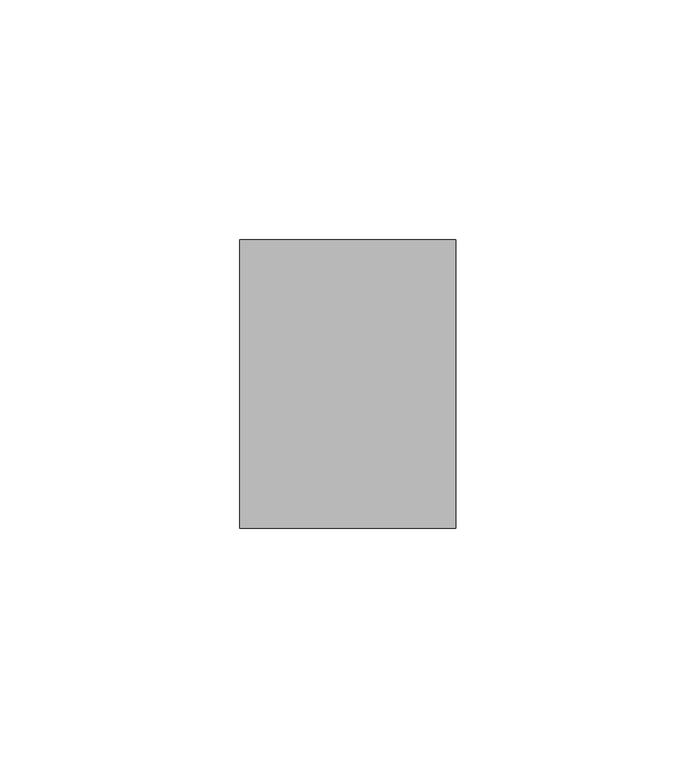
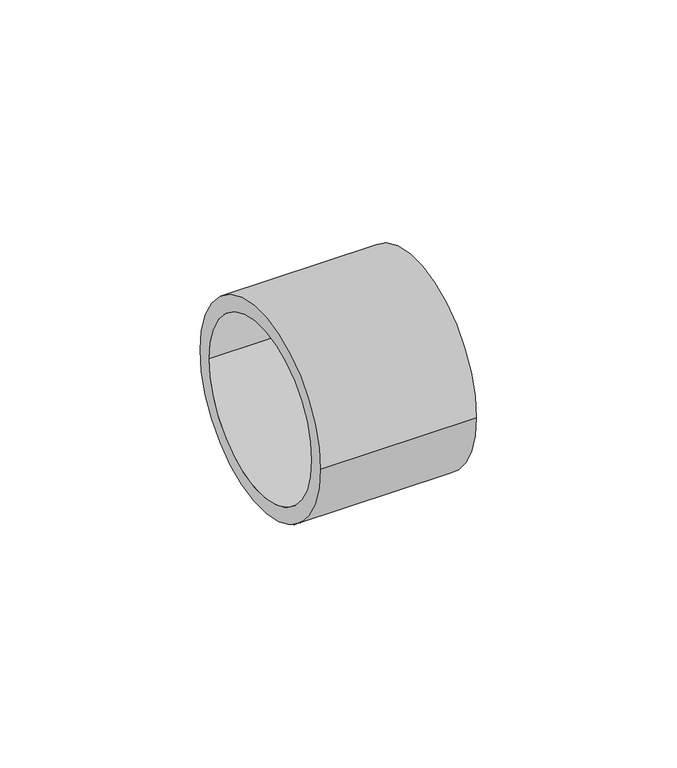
"""IFC4 building model written with IfcOpenShell, lengths in millimetres: pipe fitting geometry, RAUTITAN_Sleeve PX : RTI S PX."""

from ifc_helpers import new_model, si_unit, point, frame, origin, origin_2d, place, context, project, spatial, circle_curve, trimmed, segment, composite_curve, outline, extrude, source, transform, mapped, element, save


def pipe_fitting_02b715f6(model_context):
    return source(origin(), model_context, "Body", "SweptSolid", [
        extrude(outline(composite_curve([segment(trimmed(circle_curve(origin_2d(), 30.05), [point((-30.05, 0.0))], [point((30.05, 0.0))], False, "CARTESIAN"), True, "CONTINUOUS"), segment(trimmed(circle_curve(origin_2d(), 30.05), [point((30.05, 0.0))], [point((-30.05, 0.0))], False, "CARTESIAN"), True, "CONTINUOUS")], self_intersect=False), holes=[composite_curve([segment(trimmed(circle_curve(origin_2d(), 25.55), [point((-25.55, 0.0))], [point((25.55, 0.0))], True, "CARTESIAN"), True, "CONTINUOUS"), segment(trimmed(circle_curve(origin_2d(), 25.55), [point((25.55, 0.0))], [point((-25.55, 0.0))], True, "CARTESIAN"), True, "CONTINUOUS")], self_intersect=False)]), frame((0.0, 0.0, 0.0), z_axis=(1.0, 0.0, 0.0), x_axis=(0.0, 1.0, 0.0)), (0.0, 0.0, 1.0), 45.0),
    ])


if __name__ == "__main__":
    model = new_model("IFC4")
    model_context = context("Model", 3, world=origin())
    ifc_project = project(units=[si_unit("LENGTHUNIT", "METRE", prefix="MILLI")], contexts=[model_context])
    site = spatial("IfcSite", under=ifc_project)
    building = spatial("IfcBuilding", under=site)
    placement = place(None, origin())
    pipe_fitting_shape = pipe_fitting_02b715f6(model_context)
    element("IfcPipeFitting", 1, ObjectType="RAUTITAN_Sleeve PX : RTI S PX", at=placement, inside=building, context=model_context, shape_type="MappedRepresentation", body=[
        mapped(pipe_fitting_shape, transform((0.0, 0.0, 0.0), x_axis=(1.0, 0.0, 0.0), y_axis=(0.0, 1.0, 0.0), z_axis=(0.0, 0.0, 1.0))),
    ])
    save(model, "model.ifc")
